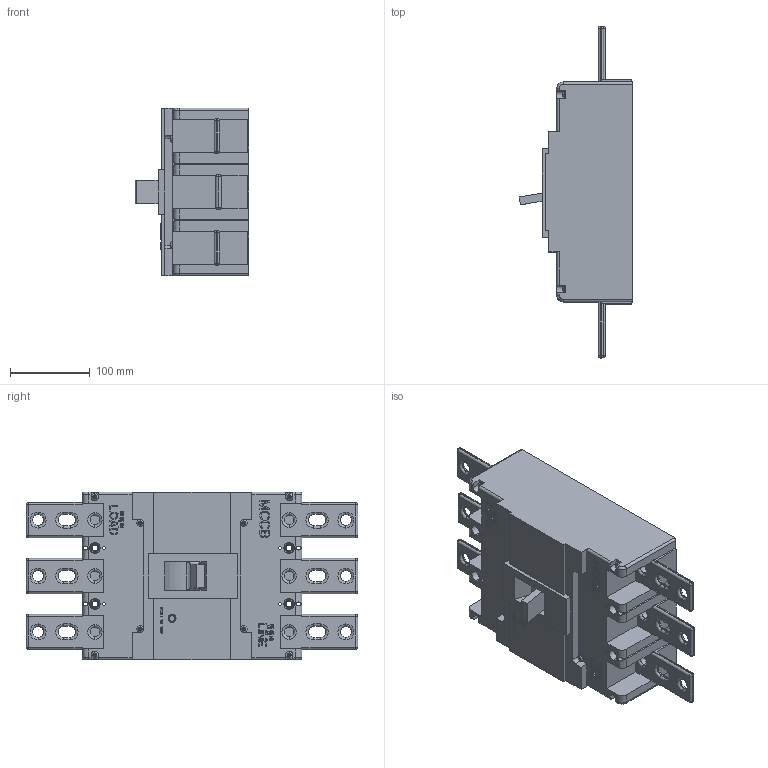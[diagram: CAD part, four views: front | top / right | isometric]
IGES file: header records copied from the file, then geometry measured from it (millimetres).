
Start section:  PTC IGES file: 27-metasol-mccb-800af-abl603c.igs
Global section: file name: 27-metasol-mccb-800af-abl603c.igs; native system: Pro/ENGINEER by Parametric Technology Corporation; preprocessor: 2010280; author: mgkimb; organization: Unknown; date: 20131029.143409; units: millimetre
Bounding box: 142.07 x 415 x 210 mm (x, y, z)
Surface area: 305577.5 mm2 (no closed solid volume)
Topology: 0 solids, 0 shells, 1327 faces, 7076 edges, 7076 vertices
Faces by surface type: bspline 1022, revolution 305
